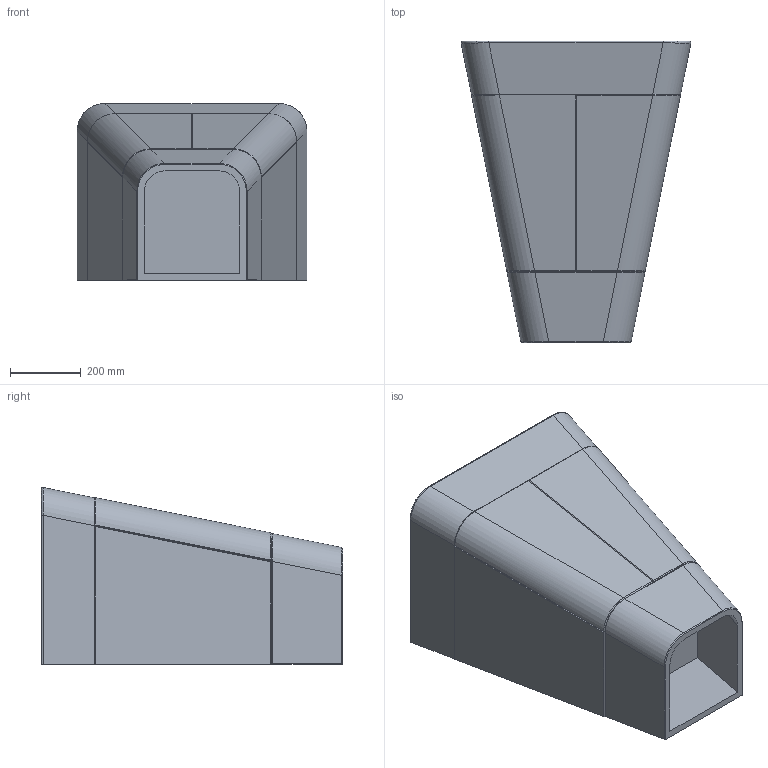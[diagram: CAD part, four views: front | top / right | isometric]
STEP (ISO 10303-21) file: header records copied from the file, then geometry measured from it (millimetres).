
FILE_DESCRIPTION (( 'STEP AP203' ), '1' );
FILE_NAME ('MBB65.STEP', '2021-10-21T08:38:29', ( '' ), ( '' ), 'SwSTEP 2.0', 'SolidWorks 2021', '' );
FILE_SCHEMA (( 'CONFIG_CONTROL_DESIGN' ));
Length unit declared in the file: millimetre
Products named in the file (7): SIFONE LAVABO SOSPESO_3; BUILD65 LAVABO_1; MBB65; SCOCCA mobBUILD65_1; BUILD65 base; ANTA DX65_1; ANTA SX65_1
Assembly tree (6 placements, depth 2):
  MBB65
    BUILD65 LAVABO_1
    SCOCCA mobBUILD65_1
    BUILD65 base
    SIFONE LAVABO SOSPESO_3
    ANTA SX65_1
    ANTA DX65_1
Bounding box: 648.24 x 850 x 499.12 mm (x, y, z)
Volume: 47469585.6 mm3; surface area: 4488034.3 mm2
Topology: 6 solids, 10 shells, 304 faces, 743 edges, 459 vertices
Faces by surface type: plane 105, bspline 103, cylinder 93, cone 3
Full cylindrical faces by diameter (mm): 20 x1, 35 x1, 46 x1, 50 x1, 66 x1, 78 x1
Entity records: 111007 total; most frequent: CARTESIAN_POINT 104067, ORIENTED_EDGE 1456, DIRECTION 1002, EDGE_CURVE 728, VERTEX_POINT 454, LINE 354, VECTOR 354, EDGE_LOOP 326
